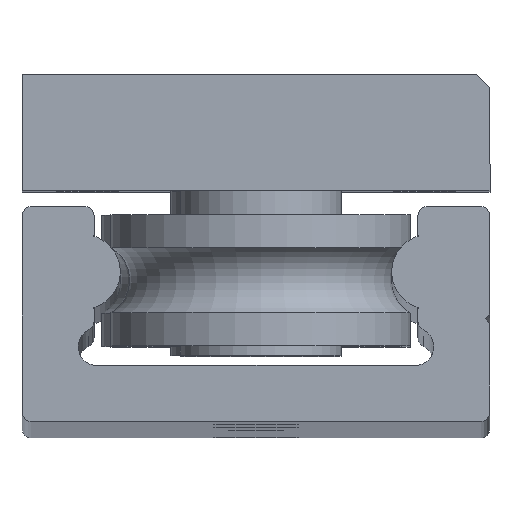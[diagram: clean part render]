
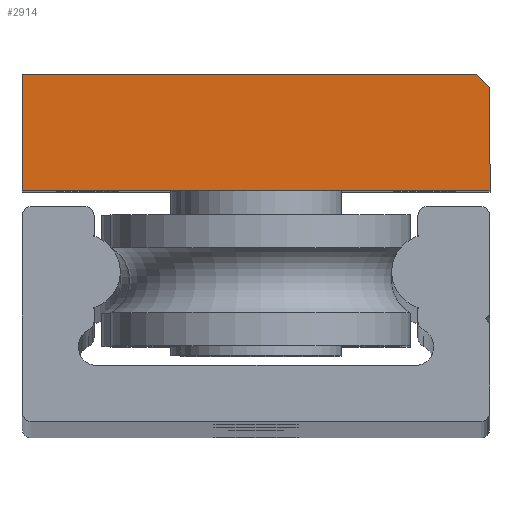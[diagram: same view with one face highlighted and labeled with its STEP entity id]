
A CAD part, top view. The second image highlights one B-rep face of the part: STEP entity #2914.
In plain terms, the highlighted planar face has unit normal (0, 0, 1).
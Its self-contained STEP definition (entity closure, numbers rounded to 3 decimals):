
#38 = ORIENTED_EDGE ( 'NONE', *, *, #1300, .T. ) ;
#85 = DIRECTION ( 'NONE',  ( -0.707, 0.707, 0. ) ) ;
#195 = DIRECTION ( 'NONE',  ( -1., 0., 0. ) ) ;
#257 = EDGE_LOOP ( 'NONE', ( #1156, #3820, #2813, #38, #1256 ) ) ;
#370 = CARTESIAN_POINT ( 'NONE',  ( 11.8, 11., 60. ) ) ;
#383 = VERTEX_POINT ( 'NONE', #399 ) ;
#399 = CARTESIAN_POINT ( 'NONE',  ( 12.5, 4.8, 60. ) ) ;
#421 = VECTOR ( 'NONE', #1328, 1000. ) ;
#460 = DIRECTION ( 'NONE',  ( 0., 1., 0. ) ) ;
#1136 = CARTESIAN_POINT ( 'NONE',  ( 11.4, 11.4, 60. ) ) ;
#1156 = ORIENTED_EDGE ( 'NONE', *, *, #2279, .T. ) ;
#1231 = VERTEX_POINT ( 'NONE', #2360 ) ;
#1256 = ORIENTED_EDGE ( 'NONE', *, *, #3423, .T. ) ;
#1260 = VERTEX_POINT ( 'NONE', #370 ) ;
#1300 = EDGE_CURVE ( 'NONE', #1231, #4082, #1308, .T. ) ;
#1308 = LINE ( 'NONE', #2078, #421 ) ;
#1328 = DIRECTION ( 'NONE',  ( 0., -1., 0. ) ) ;
#1359 = CARTESIAN_POINT ( 'NONE',  ( 0., 0., 60. ) ) ;
#1411 = LINE ( 'NONE', #1748, #3102 ) ;
#1674 = PLANE ( 'NONE',  #3041 ) ;
#1748 = CARTESIAN_POINT ( 'NONE',  ( -12.5, 11., 60. ) ) ;
#1859 = EDGE_CURVE ( 'NONE', #1260, #1231, #1411, .T. ) ;
#2078 = CARTESIAN_POINT ( 'NONE',  ( -12.5, 11., 60. ) ) ;
#2279 = EDGE_CURVE ( 'NONE', #383, #4120, #3419, .T. ) ;
#2360 = CARTESIAN_POINT ( 'NONE',  ( -12.5, 11., 60. ) ) ;
#2424 = LINE ( 'NONE', #3018, #4149 ) ;
#2653 = DIRECTION ( 'NONE',  ( 0., 0., 1. ) ) ;
#2727 = CARTESIAN_POINT ( 'NONE',  ( 12.5, 11., 60. ) ) ;
#2783 = DIRECTION ( 'NONE',  ( 1., 0., 0. ) ) ;
#2813 = ORIENTED_EDGE ( 'NONE', *, *, #1859, .T. ) ;
#2914 = ADVANCED_FACE ( 'NONE', ( #4346 ), #1674, .T. ) ;
#3005 = DIRECTION ( 'NONE',  ( 1., 0., 0. ) ) ;
#3018 = CARTESIAN_POINT ( 'NONE',  ( -12.5, 4.8, 60. ) ) ;
#3038 = VECTOR ( 'NONE', #460, 1000. ) ;
#3041 = AXIS2_PLACEMENT_3D ( 'NONE', #1359, #2653, #3005 ) ;
#3102 = VECTOR ( 'NONE', #195, 1000. ) ;
#3419 = LINE ( 'NONE', #2727, #3038 ) ;
#3423 = EDGE_CURVE ( 'NONE', #4082, #383, #2424, .T. ) ;
#3549 = CARTESIAN_POINT ( 'NONE',  ( 12.5, 10.3, 60. ) ) ;
#3597 = CARTESIAN_POINT ( 'NONE',  ( -12.5, 4.8, 60. ) ) ;
#3808 = LINE ( 'NONE', #1136, #3947 ) ;
#3820 = ORIENTED_EDGE ( 'NONE', *, *, #3910, .T. ) ;
#3910 = EDGE_CURVE ( 'NONE', #4120, #1260, #3808, .T. ) ;
#3947 = VECTOR ( 'NONE', #85, 1000. ) ;
#4082 = VERTEX_POINT ( 'NONE', #3597 ) ;
#4120 = VERTEX_POINT ( 'NONE', #3549 ) ;
#4149 = VECTOR ( 'NONE', #2783, 1000. ) ;
#4346 = FACE_OUTER_BOUND ( 'NONE', #257, .T. ) ;
